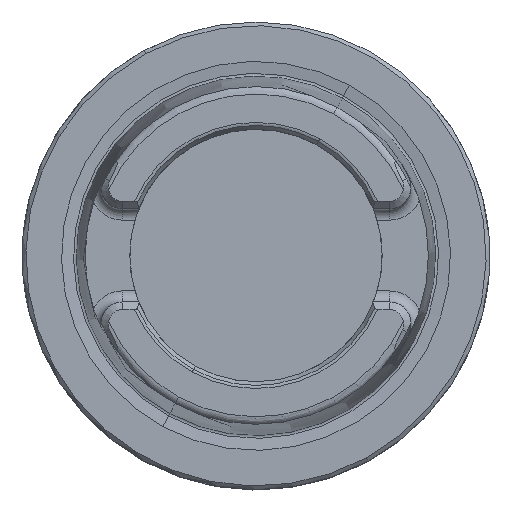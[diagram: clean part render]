
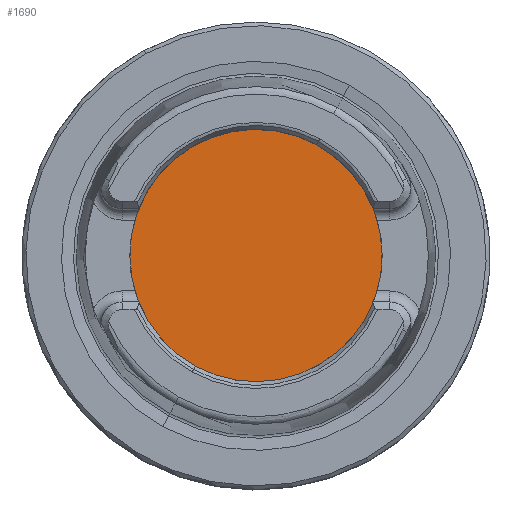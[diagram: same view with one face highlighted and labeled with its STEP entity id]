
A CAD part, top view. The second image highlights one B-rep face of the part: STEP entity #1690.
In plain terms, the highlighted planar face has unit normal (0, 0, 1).
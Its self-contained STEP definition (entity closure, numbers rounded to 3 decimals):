
#224=AXIS2_PLACEMENT_3D('Circle Axis2P3D',#222,#223,$) ;
#451=AXIS2_PLACEMENT_3D('Circle Axis2P3D',#449,#450,$) ;
#1684=AXIS2_PLACEMENT_3D('Plane Axis2P3D',#1681,#1682,#1683) ;
#222=CARTESIAN_POINT('Axis2P3D Location',(0.,0.,20.)) ;
#226=CARTESIAN_POINT('Vertex',(8.15,14.919,20.)) ;
#228=CARTESIAN_POINT('Vertex',(-8.15,-14.919,20.)) ;
#449=CARTESIAN_POINT('Axis2P3D Location',(0.,0.,20.)) ;
#1681=CARTESIAN_POINT('Axis2P3D Location',(0.,-15.75,20.)) ;
#223=DIRECTION('Axis2P3D Direction',(0.,0.,-1.)) ;
#450=DIRECTION('Axis2P3D Direction',(0.,0.,-1.)) ;
#1682=DIRECTION('Axis2P3D Direction',(0.,0.,-1.)) ;
#1683=DIRECTION('Axis2P3D XDirection',(-1.,0.,0.)) ;
#1687=ORIENTED_EDGE('',*,*,#453,.T.) ;
#1688=ORIENTED_EDGE('',*,*,#230,.T.) ;
#1690=ADVANCED_FACE('NO_CUT',(#1689),#1685,.F.) ;
#225=CIRCLE('generated circle',#224,17.) ;
#452=CIRCLE('generated circle',#451,17.) ;
#230=EDGE_CURVE('',#227,#229,#225,.F.) ;
#453=EDGE_CURVE('',#229,#227,#452,.F.) ;
#1686=EDGE_LOOP('',(#1687,#1688)) ;
#1689=FACE_OUTER_BOUND('',#1686,.T.) ;
#1685=PLANE('',#1684) ;
#227=VERTEX_POINT('',#226) ;
#229=VERTEX_POINT('',#228) ;
